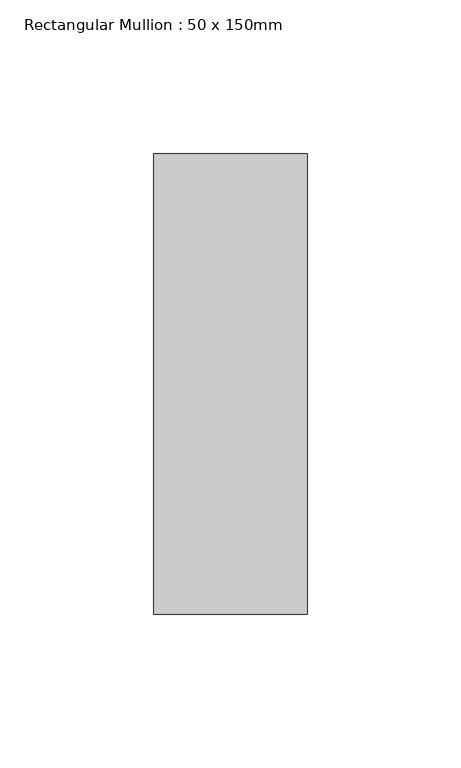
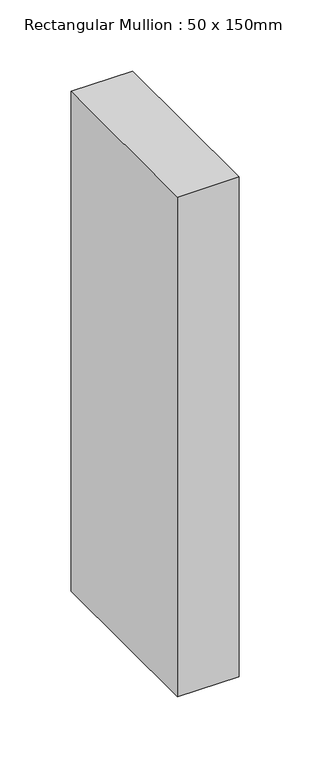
"""IFC4 building model written with IfcOpenShell, lengths in millimetres: member geometry, Rectangular Mullion : 50 x 150mm."""

from ifc_helpers import new_model, si_unit, frame, origin, place, context, project, spatial, polyline, outline, extrude, source, transform, mapped, element, save


def rectangular_mullion_50_x_150mm_b6bf1841(model_context):
    return source(origin(), model_context, "Body", "SweptSolid", [
        extrude(outline(polyline([(0.0, 75.0), (0.0, -75.0), (-50.0, -75.0), (-50.0, 75.0), (0.0, 75.0)])), frame((0.0, 0.0, -429.0000002), z_axis=(0.0, 0.0, 1.0), x_axis=(1.0, 0.0, 0.0)), (0.0, 0.0, 1.0), 429.0000002),
    ])


if __name__ == "__main__":
    model = new_model("IFC4")
    model_context = context("Model", 3, world=origin())
    ifc_project = project(units=[si_unit("LENGTHUNIT", "METRE", prefix="MILLI")], contexts=[model_context])
    site = spatial("IfcSite", under=ifc_project)
    building = spatial("IfcBuilding", under=site)
    placement = place(None, origin())
    rectangular_mullion_50_x_150mm_shape = rectangular_mullion_50_x_150mm_b6bf1841(model_context)
    element("IfcMember", 1, ObjectType="Rectangular Mullion : 50 x 150mm", at=placement, inside=building, context=model_context, shape_type="MappedRepresentation", body=[
        mapped(rectangular_mullion_50_x_150mm_shape, transform((0.0, 0.0, 0.0), x_axis=(1.0, 0.0, 0.0), y_axis=(0.0, 1.0, 0.0), z_axis=(0.0, 0.0, 1.0))),
    ])
    save(model, "model.ifc")
